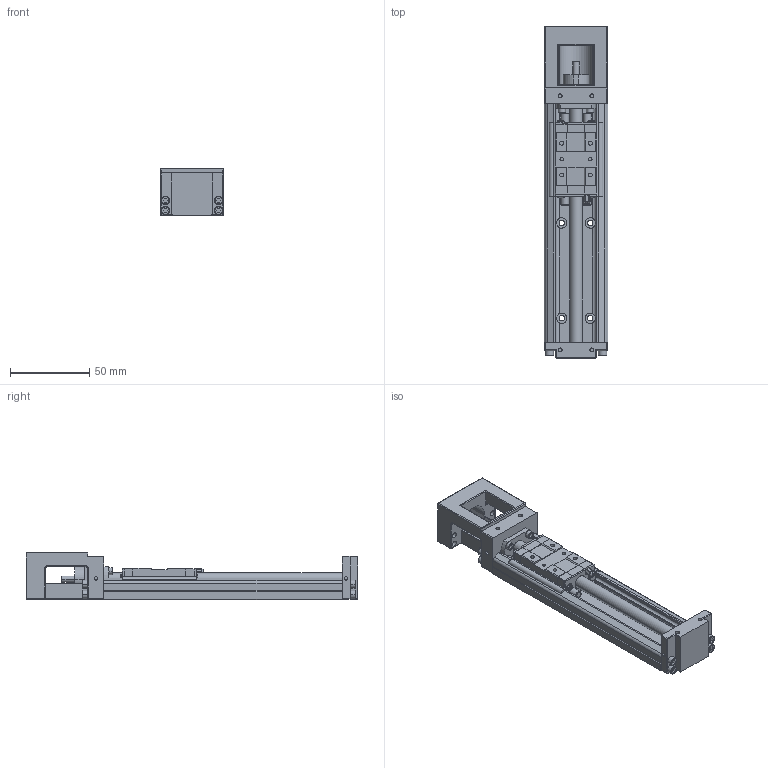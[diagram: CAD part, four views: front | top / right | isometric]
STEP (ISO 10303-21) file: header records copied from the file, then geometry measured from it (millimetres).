
FILE_DESCRIPTION(('no description'),'unknown implementation level');
FILE_NAME('KK4001P150A1F0000_FILE_2.stp',' ',('HIWIN GmbH'),('CADClick - KiM GmbH - www.kimweb.de'),'unknown preprocess','ACIS','unknown authorization');
FILE_SCHEMA(('automotive_design'));
Length unit declared in the file: millimetre
Products named in the file (2): KK40_FILE; KK4001P150A1F0000_FILE
Bounding box: 40 x 209 x 30 mm (x, y, z)
Volume: 104932.8 mm3; surface area: 46707.6 mm2
Topology: 2 solids, 14 shells, 789 faces, 1997 edges, 1276 vertices
Faces by surface type: plane 463, cylinder 274, torus 46, sphere 6
Entity records: 47116 total; most frequent: CARTESIAN_POINT 4832, DIRECTION 4212, STYLED_ITEM 4060, PRESENTATION_STYLE_ASSIGNMENT 4060, COLOUR_RGB 4060, ORIENTED_EDGE 3986, EDGE_CURVE 1993, CURVE_STYLE 1993
